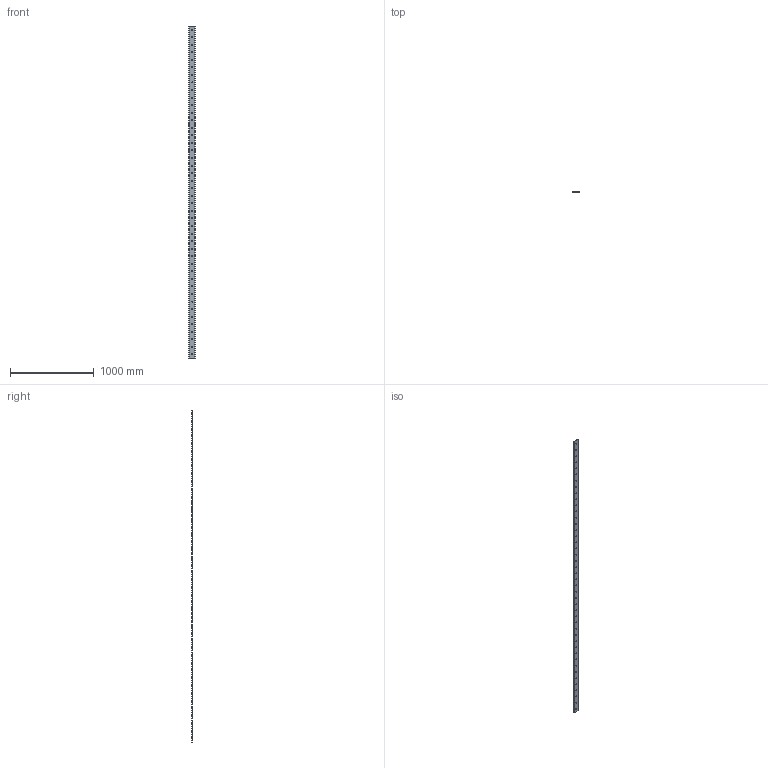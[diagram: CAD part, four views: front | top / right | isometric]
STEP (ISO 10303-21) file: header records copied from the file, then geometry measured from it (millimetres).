
FILE_DESCRIPTION(('STEP AP203'),'1');
FILE_NAME('flat_slide_ssl763956.stp','2021-10-13T02:19:51',('TraceParts'),('TraceParts S.A.'),'Spatial InterOp 3D',' ',' ');
FILE_SCHEMA(('CONFIG_CONTROL_DESIGN'));
Length unit declared in the file: millimetre
Products named in the file (1): 1
Bounding box: 75.68 x 9.1 x 3956 mm (x, y, z)
Volume: 2487472.6 mm3; surface area: 631395.3 mm2
Topology: 1 solids, 1 shells, 100 faces, 294 edges, 196 vertices
Faces by surface type: cylinder 92, plane 8
Entity records: 3662 total; most frequent: DIRECTION 680, CARTESIAN_POINT 591, ORIENTED_EDGE 588, EDGE_CURVE 294, AXIS2_PLACEMENT_3D 285, VERTEX_POINT 196, EDGE_LOOP 188, CIRCLE 184
